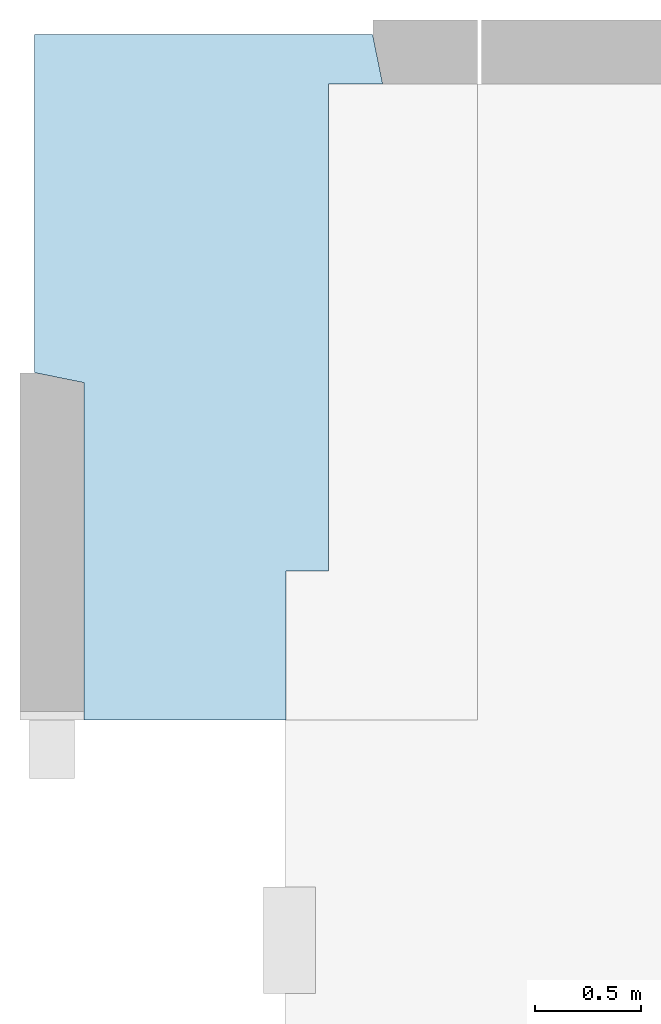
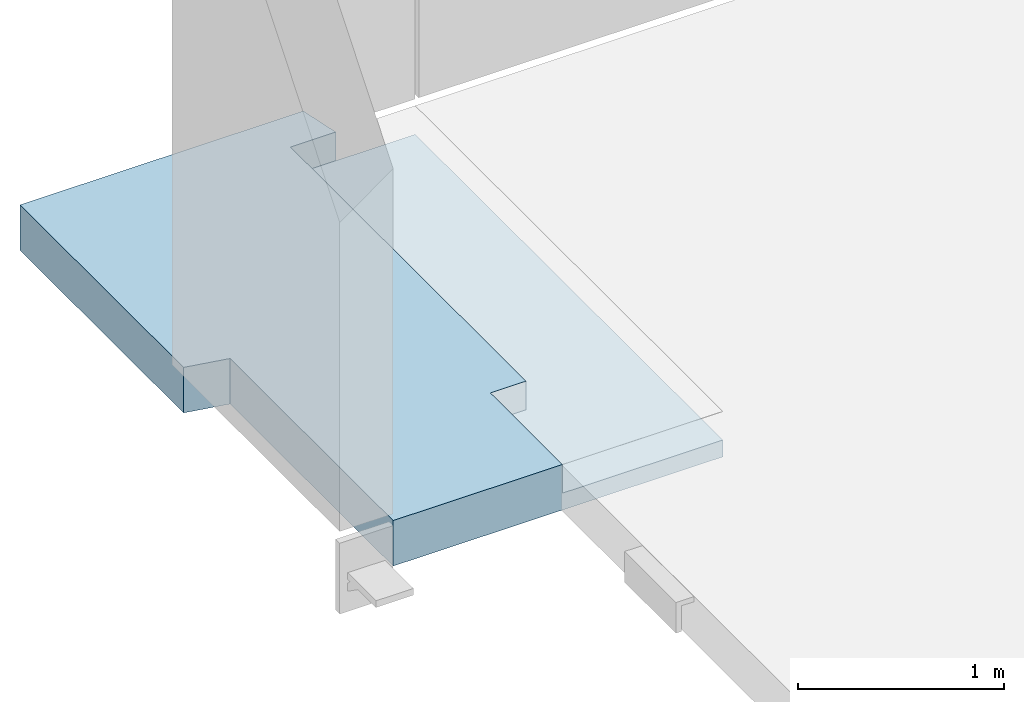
# One storey, part 5 of 5: 1 slab.
"""IFC2X3 building model written with IfcOpenShell, lengths in millimetres."""

import ifcopenshell
import ifcopenshell.guid

model = None  # the IFC model being written
_history = None  # IfcOwnerHistory: only IFC2X3 demands one
_inside = {}  # id of a spatial element -> (the spatial element, [elements in it])
_under = {}  # id of a project, library or spatial element -> (it, [spatial elements below it])
_declared = {}  # id of a project -> (the project, [libraries it declares])
_typed = {}  # id of a type object -> (the type object, [elements of that type])
_made_of = {}  # id of a material, layer set ... -> (it, [elements and type objects made of it])


def new_model(schema):
    """Start an empty IFC model of exactly this schema.

    Asked for "IFC4X3", IfcOpenShell would pick the latest addendum, in which some entities
    have other attributes; the version numbers below select the first issue.
    IFC2X3 requires an IfcOwnerHistory on every rooted entity: one is made here for all.
    """
    global model, _history
    if schema == "IFC4X3":
        model = ifcopenshell.file(schema_version=(4, 3, 0, 0))
    else:
        model = ifcopenshell.file(schema=schema)
    _inside.clear()
    _under.clear()
    _declared.clear()
    _typed.clear()
    _made_of.clear()
    _history = None
    if model.schema == "IFC2X3":
        org = make("IfcOrganization", Name="unknown")
        user = make(
            "IfcPersonAndOrganization",
            ThePerson=make("IfcPerson", FamilyName="unknown"),
            TheOrganization=org,
        )
        app = make(
            "IfcApplication",
            ApplicationDeveloper=org,
            Version="unknown",
            ApplicationFullName="unknown",
            ApplicationIdentifier="unknown",
        )
        _history = make(
            "IfcOwnerHistory",
            OwningUser=user,
            OwningApplication=app,
            ChangeAction="ADDED",
            CreationDate=0,
        )
    return model


def make(cls, **values):
    """One entity of the class cls with the attributes given. An attribute that is None is left unset."""
    return model.create_entity(
        cls, **{name: value for name, value in values.items() if value is not None}
    )


def entity(cls, *values):
    """Any entity or typed value of the class cls, its attributes in the order of the schema. None: left unset."""
    e = model.create_entity(cls)
    for i, value in enumerate(values):
        if value is not None:
            e[i] = value
    return e


def rooted(cls, **values):
    """An entity with a GlobalId (a new one), such as an element, a storey or a relation."""
    return make(cls, GlobalId=ifcopenshell.guid.new(), OwnerHistory=_history, **values)


def si_unit(unit_type, name, prefix=None):
    """IfcSIUnit, for example si_unit("LENGTHUNIT", "METRE", prefix="MILLI")."""
    return make("IfcSIUnit", UnitType=unit_type, Prefix=prefix, Name=name)


def converted_unit(unit_type, name, factor, base, dimensions=None, offset=None):
    """IfcConversionBasedUnit, such as the inch: factor (a typed value) times the base unit."""
    return make(
        "IfcConversionBasedUnit"
        if offset is None
        else "IfcConversionBasedUnitWithOffset",
        ConversionOffset=offset,
        Dimensions=None
        if dimensions is None
        else entity("IfcDimensionalExponents", *dimensions),
        UnitType=unit_type,
        Name=name,
        ConversionFactor=make(
            "IfcMeasureWithUnit", ValueComponent=factor, UnitComponent=base
        ),
    )


def derived_unit(unit_type, elements):
    """IfcDerivedUnit: a product of units, each with its exponent."""
    return make(
        "IfcDerivedUnit",
        Elements=[
            make("IfcDerivedUnitElement", Unit=unit, Exponent=power)
            for unit, power in elements
        ],
        UnitType=unit_type,
    )


def assignment(units):
    """IfcUnitAssignment: the units of a project."""
    return None if units is None else make("IfcUnitAssignment", Units=units)


def point(xyz):
    """IfcCartesianPoint."""
    return None if xyz is None else make("IfcCartesianPoint", Coordinates=xyz)


def direction(xyz):
    """IfcDirection."""
    return None if xyz is None else make("IfcDirection", DirectionRatios=xyz)


def frame(location, z_axis=None, x_axis=None):
    """IfcAxis2Placement3D, a coordinate frame: its origin and axes. An axis left out is left unset."""
    return make(
        "IfcAxis2Placement3D",
        Location=point(location),
        Axis=direction(z_axis),
        RefDirection=direction(x_axis),
    )


def origin():
    """The frame at (0, 0, 0) with its axes left unset."""
    return frame((0.0, 0.0, 0.0))


def place(relative_to, where):
    """IfcLocalPlacement: puts the frame where relative to a parent placement (None: the world)."""
    return make(
        "IfcLocalPlacement", PlacementRelTo=relative_to, RelativePlacement=where
    )


def context(
    kind, dimensions, precision=None, world=None, true_north=None, identifier=None
):
    """IfcGeometricRepresentationContext, for example the 3D "Model" context."""
    return make(
        "IfcGeometricRepresentationContext",
        ContextIdentifier=identifier,
        ContextType=kind,
        CoordinateSpaceDimension=dimensions,
        Precision=precision,
        WorldCoordinateSystem=world,
        TrueNorth=true_north,
    )


def subcontext(parent, identifier, kind, view, scale=None):
    """IfcGeometricRepresentationSubContext, for example "Body" below "Model"."""
    return make(
        "IfcGeometricRepresentationSubContext",
        ContextIdentifier=identifier,
        ContextType=kind,
        ParentContext=parent,
        TargetScale=scale,
        TargetView=view,
    )


def project(units=None, contexts=None):
    """IfcProject with its units and contexts."""
    return rooted(
        "IfcProject",
        Name="project",
        RepresentationContexts=contexts,
        UnitsInContext=assignment(units),
    )


def spatial(cls, under=None, at=None, **own):
    """A site, building, storey or space (cls), placed at a placement, below another one or the project."""
    s = rooted(cls, ObjectPlacement=at, **own)
    if under is not None:
        _under.setdefault(under.id(), (under, []))[1].append(s)
    return s


def faces_of(points, faces, orient=None, outer=None):
    """IfcFace entities. A face is a list of loops; a loop is a list of indices into points, from 0.

    orient and outer hold one flag for each loop. By default every Orientation is true, the
    first loop of a face is its IfcFaceOuterBound and the others are IfcFaceBound.
    """
    made = []
    for i, loops in enumerate(faces):
        bounds = []
        for j, loop in enumerate(loops):
            is_outer = j == 0 if outer is None else outer[i][j]
            bounds.append(
                make(
                    "IfcFaceOuterBound" if is_outer else "IfcFaceBound",
                    Bound=make("IfcPolyLoop", Polygon=[points[k] for k in loop]),
                    Orientation=True if orient is None else orient[i][j],
                )
            )
        made.append(make("IfcFace", Bounds=bounds))
    return made


def faceted_brep(points, faces, orient=None, outer=None, voids=None):
    """IfcFacetedBrep: a solid bounded by flat faces; with voids (closed shells), ...WithVoids."""
    shared = [point(p) for p in points]
    hull = make("IfcClosedShell", CfsFaces=faces_of(shared, faces, orient, outer))
    if voids is None:
        return make("IfcFacetedBrep", Outer=hull)
    return make(
        "IfcFacetedBrepWithVoids",
        Outer=hull,
        Voids=[
            make(cls, CfsFaces=faces_of(shared, fs, o, b)) for cls, fs, o, b in voids
        ],
    )


def shape(context_of_items, identifier, shape_type, items):
    """IfcShapeRepresentation: the items that make up one representation, for example the "Body"."""
    return make(
        "IfcShapeRepresentation",
        ContextOfItems=context_of_items,
        RepresentationIdentifier=identifier,
        RepresentationType=shape_type,
        Items=items,
    )


def made_of(thing, what):
    """Note that an element or type object is made of a material, layer set ...; save() writes the relation."""
    if what is not None:
        _made_of.setdefault(what.id(), (what, []))[1].append(thing)
    return thing


def element(
    cls,
    number,
    at=None,
    inside=None,
    cuts=None,
    type_object=None,
    material=None,
    context=None,
    identifier="Body",
    shape_type=None,
    held_by="IfcProductDefinitionShape",
    body=None,
    shapes=None,
    **own,
):
    """One element of the class cls, such as IfcWall. Its Tag is "e" and its number.

    at: its placement. inside: the storey or other place that contains it. cuts: it is an
    opening in that element (IfcRelVoidsElement). A single representation is given by context,
    identifier, shape_type and body (its items); several are given by shapes. held_by: the class
    of the entity that holds the representations. save() writes the other relations.
    """
    e = rooted(cls, Tag="e%d" % number, ObjectPlacement=at, **own)
    if body is not None:
        shapes = [shape(context, identifier, shape_type, body)]
    if shapes is not None:
        e.Representation = make(held_by, Representations=shapes)
    if inside is not None:
        _inside.setdefault(inside.id(), (inside, []))[1].append(e)
    if cuts is not None:
        rooted(
            "IfcRelVoidsElement", RelatingBuildingElement=cuts, RelatedOpeningElement=e
        )
    if type_object is not None:
        _typed.setdefault(type_object.id(), (type_object, []))[1].append(e)
    return made_of(e, material)


def aggregate(whole, parts):
    """IfcRelAggregates: a whole, such as a stair, and the parts it consists of."""
    return rooted("IfcRelAggregates", RelatingObject=whole, RelatedObjects=parts)


def save(model, path):
    """Write the relations noted so far, then the file.

    IfcRelAggregates (storeys below a building ...), IfcRelContainedInSpatialStructure (elements
    in a storey), IfcRelDefinesByType, IfcRelAssociatesMaterial and IfcRelDeclares: one each for
    every whole, place, type object, material and project.
    """
    for whole, parts in _under.values():
        aggregate(whole, parts)
    for where, things in _inside.values():
        rooted(
            "IfcRelContainedInSpatialStructure",
            RelatedElements=things,
            RelatingStructure=where,
        )
    for kind, things in _typed.values():
        rooted("IfcRelDefinesByType", RelatedObjects=things, RelatingType=kind)
    for what, things in _made_of.values():
        rooted("IfcRelAssociatesMaterial", RelatedObjects=things, RelatingMaterial=what)
    for by, libraries in _declared.values():
        rooted("IfcRelDeclares", RelatingContext=by, RelatedDefinitions=libraries)
    model.write(path)


model = new_model("IFC2X3")

# Units and contexts
model_context = context("Model", 3, precision=0.01, world=origin(), true_north=direction((6.12303176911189e-17, 1.0)))
body_context = subcontext(model_context, "Body", "Model", "MODEL_VIEW")
ifc_project = project(units=[si_unit("LENGTHUNIT", "METRE", prefix="MILLI"), si_unit("AREAUNIT", "SQUARE_METRE"), si_unit("VOLUMEUNIT", "CUBIC_METRE"), converted_unit("PLANEANGLEUNIT", "DEGREE", entity("IfcRatioMeasure", 0.0174532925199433), si_unit("PLANEANGLEUNIT", "RADIAN"), dimensions=[0, 0, 0, 0, 0, 0, 0]), si_unit("MASSUNIT", "GRAM", prefix="KILO"), derived_unit("MASSDENSITYUNIT", [(si_unit("MASSUNIT", "GRAM", prefix="KILO"), 1), (si_unit("LENGTHUNIT", "METRE"), -3)]), si_unit("TIMEUNIT", "SECOND"), si_unit("FREQUENCYUNIT", "HERTZ"), si_unit("THERMODYNAMICTEMPERATUREUNIT", "DEGREE_CELSIUS"), derived_unit("THERMALTRANSMITTANCEUNIT", [(si_unit("MASSUNIT", "GRAM", prefix="KILO"), 1), (si_unit("THERMODYNAMICTEMPERATUREUNIT", "KELVIN"), -1), (si_unit("TIMEUNIT", "SECOND"), -3)]), derived_unit("VOLUMETRICFLOWRATEUNIT", [(si_unit("LENGTHUNIT", "METRE"), 3), (si_unit("TIMEUNIT", "SECOND"), -1)]), si_unit("ELECTRICCURRENTUNIT", "AMPERE"), si_unit("ELECTRICVOLTAGEUNIT", "VOLT"), si_unit("POWERUNIT", "WATT"), si_unit("FORCEUNIT", "NEWTON", prefix="KILO"), si_unit("ILLUMINANCEUNIT", "LUX"), si_unit("LUMINOUSFLUXUNIT", "LUMEN"), si_unit("LUMINOUSINTENSITYUNIT", "CANDELA"), derived_unit("USERDEFINED", [(si_unit("MASSUNIT", "GRAM", prefix="KILO"), -1), (si_unit("LENGTHUNIT", "METRE"), -2), (si_unit("TIMEUNIT", "SECOND"), 3), (si_unit("LUMINOUSFLUXUNIT", "LUMEN"), 1)]), derived_unit("LINEARVELOCITYUNIT", [(si_unit("LENGTHUNIT", "METRE"), 1), (si_unit("TIMEUNIT", "SECOND"), -1)]), si_unit("PRESSUREUNIT", "PASCAL"), derived_unit("USERDEFINED", [(si_unit("LENGTHUNIT", "METRE"), -2), (si_unit("MASSUNIT", "GRAM", prefix="KILO"), 1), (si_unit("TIMEUNIT", "SECOND"), -2)])], contexts=[model_context])

# Site, building, storey
site_placement = place(None, origin())
site = spatial("IfcSite", under=ifc_project, at=site_placement, Name="Default", CompositionType="ELEMENT")
building_placement = place(site_placement, origin())
building = spatial("IfcBuilding", under=site, at=building_placement, Name="niet gebruiken", CompositionType="ELEMENT")
storey_placement = place(building_placement, frame((0.0, 0.0, 143460.0)))
storey = spatial("IfcBuildingStorey", under=building, at=storey_placement, Name="46 zesenveertigste verdieping", CompositionType="ELEMENT", Elevation=143460.0)

# Slab
slab_placement = place(storey_placement, origin())
element("IfcSlab", 1, at=slab_placement, inside=storey, Name="Floor:NLRS_23.22_FL_beton prefab d=270 3D element_gen", ObjectType="Floor:NLRS_23.22_FL_beton prefab d=270 3D element_gen", PredefinedType="LANDING", context=body_context, shape_type="Brep", body=[
    faceted_brep([(126420.0, 29840.0, -360.0), (126420.0, 31425.3761755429, -360.0), (126187.0, 31472.8526645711, -360.0), (126187.0, 33063.0, -360.0), (127777.147335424, 33063.0, -360.0), (127824.623824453, 32830.0, -360.0), (128270.0, 32830.0, -360.0), (128270.0, 29840.0, -360.0), (126420.0, 31425.3761755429, -90.0), (126420.0, 29840.0, -90.0), (127370.0, 29840.0, -90.0), (127370.0, 30540.0, -90.0), (127570.0, 30540.0, -90.0), (127570.0, 32830.0, -90.0), (127824.623824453, 32830.0, -90.0), (127777.147335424, 33063.0, -90.0), (126187.0, 33063.0, -90.0), (126187.0, 31472.8526645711, -90.0), (127824.623824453, 32830.0, -260.0), (128270.0, 32830.0, -260.0), (128270.0, 29840.0, -260.0), (127370.0, 29840.0, -260.0), (127370.0, 30540.0, -260.0), (127570.0, 32830.0, -260.0), (127570.0, 30540.0, -260.0)], [[[0, 1, 2, 3, 4, 5, 6, 7]], [[8, 9, 10, 11, 12, 13, 14, 15, 16, 17]], [[1, 0, 9, 8]], [[2, 1, 8, 17]], [[3, 2, 17, 16]], [[4, 3, 16, 15]], [[5, 4, 15, 14, 18]], [[6, 5, 18, 19]], [[7, 6, 19, 20]], [[0, 7, 20, 21, 10, 9]], [[22, 21, 20, 19, 18, 23, 24]], [[13, 23, 18, 14]], [[21, 22, 11, 10]], [[22, 24, 12, 11]], [[24, 23, 13, 12]]]),
])

save(model, "model.ifc")
